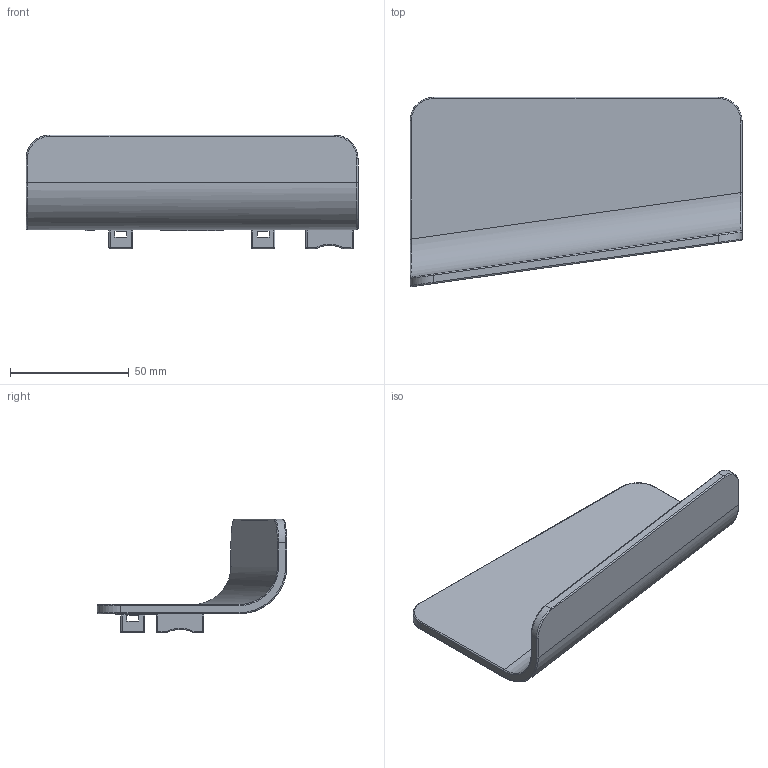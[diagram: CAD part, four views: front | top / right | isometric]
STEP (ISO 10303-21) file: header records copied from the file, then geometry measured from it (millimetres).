
FILE_DESCRIPTION(/* description */ (''),/* implementation_level */ '2;1');
FILE_NAME(/* name */ 'Auflage_Tuergriff_rechts_DIN_L_HK17628_BL.1.1.stp',/* time_stamp */ '2020-04-09T07:34:25+02:00',/* author */ (''),/* organization */ (''),/* preprocessor_version */ 'ST-DEVELOPER v16.7',/* originating_system */ 'SIEMENS PLM Software NX 12.0',/* authorisation */ '');
FILE_SCHEMA (('AUTOMOTIVE_DESIGN { 1 0 10303 214 3 1 1 1 }'));
Length unit declared in the file: millimetre
Products named in the file (1): Schale_fuer_Tuergriff_rechts_konischer_Verlauf_00941210
Bounding box: 140 x 79.92 x 48 mm (x, y, z)
Volume: 58445.6 mm3; surface area: 31319.6 mm2
Topology: 1 solids, 1 shells, 192 faces, 493 edges, 297 vertices
Faces by surface type: plane 97, cylinder 52, extrusion 13, sphere 12, torus 10, bspline 8
Full cylindrical faces by diameter (mm): 3.14 x1
Entity records: 6034 total; most frequent: CARTESIAN_POINT 1440, ORIENTED_EDGE 958, DIRECTION 938, EDGE_CURVE 479, VECTOR 332, LINE 319, AXIS2_PLACEMENT_3D 303, VERTEX_POINT 296
